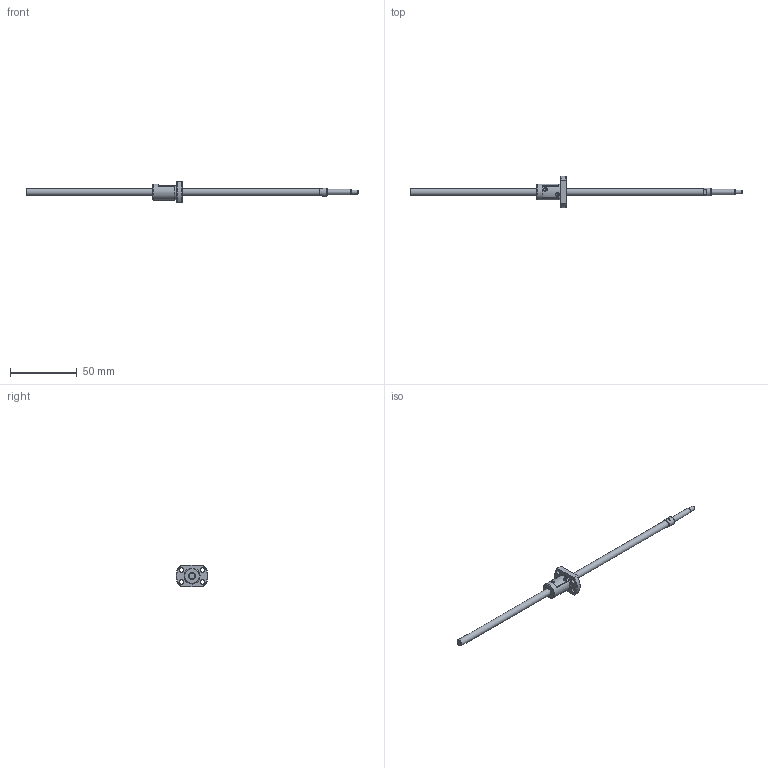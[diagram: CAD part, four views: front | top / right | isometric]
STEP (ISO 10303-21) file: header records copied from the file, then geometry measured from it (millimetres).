
FILE_DESCRIPTION(/* description */ ('STEP AP214'),/* implementation_level */ '2;1');
FILE_NAME(/* name */ 'SRT0504-216R249C7A0X(95Processing)',/* time_stamp */ '2026-08-04T17:52:36+02:00',/* author */ ('License CC BY-ND 4.0'),/* organization */ ('CADENAS'),/* preprocessor_version */ 'ST-DEVELOPER v20',/* originating_system */ 'PARTsolutions',/* authorisation */ ' ');
FILE_SCHEMA (('AUTOMOTIVE_DESIGN {1 0 10303 214 3 1 1}'));
Length unit declared in the file: millimetre
Products named in the file (3): SRT0504-216R249C7A0X(95Processing); SRT0504-216R275ACt7Processing10Shaft; SRT0504Nut
Assembly tree (2 placements, depth 2):
  SRT0504-216R249C7A0X(95Processing)
    SRT0504-216R275ACt7Processing10Shaft
    SRT0504Nut
Bounding box: 249 x 23.92 x 16 mm (x, y, z)
Volume: 7476 mm3; surface area: 5961.6 mm2
Topology: 2 solids, 2 shells, 60 faces, 148 edges, 97 vertices
Faces by surface type: plane 30, cylinder 16, cone 13, torus 1
Full cylindrical faces by diameter (mm): 1 x2, 3 x1, 3.4 x4, 4 x1, 5 x2, 6 x1, 11.5 x1, 12 x1
Entity records: 1683 total; most frequent: CARTESIAN_POINT 327, DIRECTION 276, ORIENTED_EDGE 224, AXIS2_PLACEMENT_3D 119, EDGE_CURVE 112, EDGE_LOOP 98, FACE_BOUND 98, VERTEX_POINT 84
